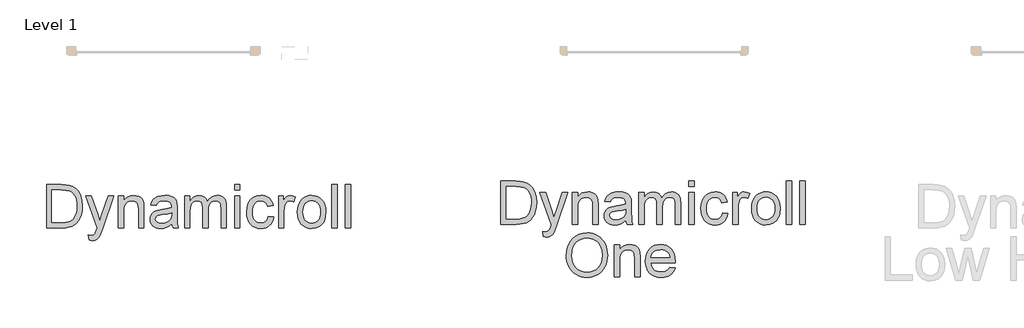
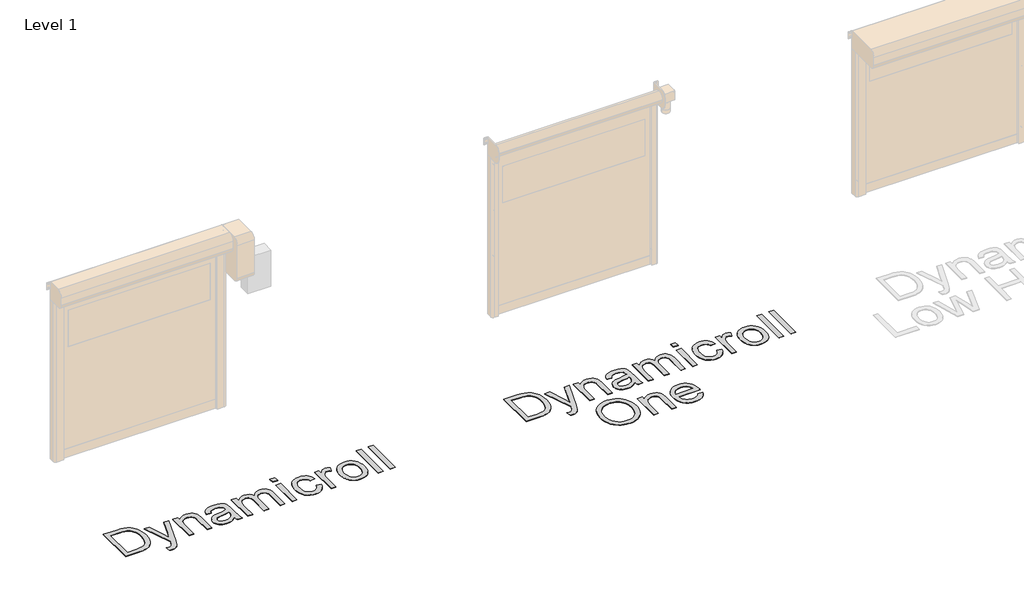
# One storey, part 13 of 20: 2 proxies.
"""IFC4 building model written with IfcOpenShell, lengths in millimetres."""

import ifcopenshell
import ifcopenshell.guid

model = None  # the IFC model being written
_history = None  # IfcOwnerHistory: only IFC2X3 demands one
_inside = {}  # id of a spatial element -> (the spatial element, [elements in it])
_under = {}  # id of a project, library or spatial element -> (it, [spatial elements below it])
_declared = {}  # id of a project -> (the project, [libraries it declares])
_typed = {}  # id of a type object -> (the type object, [elements of that type])
_made_of = {}  # id of a material, layer set ... -> (it, [elements and type objects made of it])


def new_model(schema):
    """Start an empty IFC model of exactly this schema.

    Asked for "IFC4X3", IfcOpenShell would pick the latest addendum, in which some entities
    have other attributes; the version numbers below select the first issue.
    IFC2X3 requires an IfcOwnerHistory on every rooted entity: one is made here for all.
    """
    global model, _history
    if schema == "IFC4X3":
        model = ifcopenshell.file(schema_version=(4, 3, 0, 0))
    else:
        model = ifcopenshell.file(schema=schema)
    _inside.clear()
    _under.clear()
    _declared.clear()
    _typed.clear()
    _made_of.clear()
    _history = None
    if model.schema == "IFC2X3":
        org = make("IfcOrganization", Name="unknown")
        user = make(
            "IfcPersonAndOrganization",
            ThePerson=make("IfcPerson", FamilyName="unknown"),
            TheOrganization=org,
        )
        app = make(
            "IfcApplication",
            ApplicationDeveloper=org,
            Version="unknown",
            ApplicationFullName="unknown",
            ApplicationIdentifier="unknown",
        )
        _history = make(
            "IfcOwnerHistory",
            OwningUser=user,
            OwningApplication=app,
            ChangeAction="ADDED",
            CreationDate=0,
        )
    return model


def make(cls, **values):
    """One entity of the class cls with the attributes given. An attribute that is None is left unset."""
    return model.create_entity(
        cls, **{name: value for name, value in values.items() if value is not None}
    )


def rooted(cls, **values):
    """An entity with a GlobalId (a new one), such as an element, a storey or a relation."""
    return make(cls, GlobalId=ifcopenshell.guid.new(), OwnerHistory=_history, **values)


def si_unit(unit_type, name, prefix=None):
    """IfcSIUnit, for example si_unit("LENGTHUNIT", "METRE", prefix="MILLI")."""
    return make("IfcSIUnit", UnitType=unit_type, Prefix=prefix, Name=name)


def assignment(units):
    """IfcUnitAssignment: the units of a project."""
    return None if units is None else make("IfcUnitAssignment", Units=units)


def point(xyz):
    """IfcCartesianPoint."""
    return None if xyz is None else make("IfcCartesianPoint", Coordinates=xyz)


def direction(xyz):
    """IfcDirection."""
    return None if xyz is None else make("IfcDirection", DirectionRatios=xyz)


def frame(location, z_axis=None, x_axis=None):
    """IfcAxis2Placement3D, a coordinate frame: its origin and axes. An axis left out is left unset."""
    return make(
        "IfcAxis2Placement3D",
        Location=point(location),
        Axis=direction(z_axis),
        RefDirection=direction(x_axis),
    )


def origin():
    """The frame at (0, 0, 0) with its axes left unset."""
    return frame((0.0, 0.0, 0.0))


def origin_with_axes():
    """The frame at (0, 0, 0) with the z axis (0, 0, 1) and the x axis (1, 0, 0) written out."""
    return frame((0.0, 0.0, 0.0), z_axis=(0.0, 0.0, 1.0), x_axis=(1.0, 0.0, 0.0))


def place(relative_to, where):
    """IfcLocalPlacement: puts the frame where relative to a parent placement (None: the world)."""
    return make(
        "IfcLocalPlacement", PlacementRelTo=relative_to, RelativePlacement=where
    )


def context(
    kind, dimensions, precision=None, world=None, true_north=None, identifier=None
):
    """IfcGeometricRepresentationContext, for example the 3D "Model" context."""
    return make(
        "IfcGeometricRepresentationContext",
        ContextIdentifier=identifier,
        ContextType=kind,
        CoordinateSpaceDimension=dimensions,
        Precision=precision,
        WorldCoordinateSystem=world,
        TrueNorth=true_north,
    )


def project(units=None, contexts=None):
    """IfcProject with its units and contexts."""
    return rooted(
        "IfcProject",
        Name="project",
        RepresentationContexts=contexts,
        UnitsInContext=assignment(units),
    )


def spatial(cls, under=None, at=None, **own):
    """A site, building, storey or space (cls), placed at a placement, below another one or the project."""
    s = rooted(cls, ObjectPlacement=at, **own)
    if under is not None:
        _under.setdefault(under.id(), (under, []))[1].append(s)
    return s


def polyline(points):
    """IfcPolyline through the points."""
    return make("IfcPolyline", Points=[point(p) for p in points])


def outline(outer, holes=None, kind="AREA"):
    """IfcArbitraryClosedProfileDef: a profile drawn as a closed curve; with holes, ...WithVoids."""
    if holes is None:
        return make("IfcArbitraryClosedProfileDef", ProfileType=kind, OuterCurve=outer)
    return make(
        "IfcArbitraryProfileDefWithVoids",
        ProfileType=kind,
        OuterCurve=outer,
        InnerCurves=holes,
    )


def extrude(swept, where, along, depth):
    """IfcExtrudedAreaSolid: the profile swept, set in the frame where, extruded along a direction by depth."""
    return make(
        "IfcExtrudedAreaSolid",
        SweptArea=swept,
        Position=where,
        ExtrudedDirection=direction(along),
        Depth=depth,
    )


def shape(context_of_items, identifier, shape_type, items):
    """IfcShapeRepresentation: the items that make up one representation, for example the "Body"."""
    return make(
        "IfcShapeRepresentation",
        ContextOfItems=context_of_items,
        RepresentationIdentifier=identifier,
        RepresentationType=shape_type,
        Items=items,
    )


def made_of(thing, what):
    """Note that an element or type object is made of a material, layer set ...; save() writes the relation."""
    if what is not None:
        _made_of.setdefault(what.id(), (what, []))[1].append(thing)
    return thing


def element(
    cls,
    number,
    at=None,
    inside=None,
    cuts=None,
    type_object=None,
    material=None,
    context=None,
    identifier="Body",
    shape_type=None,
    held_by="IfcProductDefinitionShape",
    body=None,
    shapes=None,
    **own,
):
    """One element of the class cls, such as IfcWall. Its Tag is "e" and its number.

    at: its placement. inside: the storey or other place that contains it. cuts: it is an
    opening in that element (IfcRelVoidsElement). A single representation is given by context,
    identifier, shape_type and body (its items); several are given by shapes. held_by: the class
    of the entity that holds the representations. save() writes the other relations.
    """
    e = rooted(cls, Tag="e%d" % number, ObjectPlacement=at, **own)
    if body is not None:
        shapes = [shape(context, identifier, shape_type, body)]
    if shapes is not None:
        e.Representation = make(held_by, Representations=shapes)
    if inside is not None:
        _inside.setdefault(inside.id(), (inside, []))[1].append(e)
    if cuts is not None:
        rooted(
            "IfcRelVoidsElement", RelatingBuildingElement=cuts, RelatedOpeningElement=e
        )
    if type_object is not None:
        _typed.setdefault(type_object.id(), (type_object, []))[1].append(e)
    return made_of(e, material)


def aggregate(whole, parts):
    """IfcRelAggregates: a whole, such as a stair, and the parts it consists of."""
    return rooted("IfcRelAggregates", RelatingObject=whole, RelatedObjects=parts)


def save(model, path):
    """Write the relations noted so far, then the file.

    IfcRelAggregates (storeys below a building ...), IfcRelContainedInSpatialStructure (elements
    in a storey), IfcRelDefinesByType, IfcRelAssociatesMaterial and IfcRelDeclares: one each for
    every whole, place, type object, material and project.
    """
    for whole, parts in _under.values():
        aggregate(whole, parts)
    for where, things in _inside.values():
        rooted(
            "IfcRelContainedInSpatialStructure",
            RelatedElements=things,
            RelatingStructure=where,
        )
    for kind, things in _typed.values():
        rooted("IfcRelDefinesByType", RelatedObjects=things, RelatingType=kind)
    for what, things in _made_of.values():
        rooted("IfcRelAssociatesMaterial", RelatedObjects=things, RelatingMaterial=what)
    for by, libraries in _declared.values():
        rooted("IfcRelDeclares", RelatingContext=by, RelatedDefinitions=libraries)
    model.write(path)


model = new_model("IFC4")

# Units and contexts
model_context = context("Model", 3, world=origin())
ifc_project = project(units=[si_unit("LENGTHUNIT", "METRE", prefix="MILLI")], contexts=[model_context])

# Site, building, storey
site = spatial("IfcSite", under=ifc_project)
building = spatial("IfcBuilding", under=site)
storey = spatial("IfcBuildingStorey", under=building, Name="Level 1", Elevation=0.0)

# Proxies
placement = place(None, origin())
element("IfcBuildingElementProxy", 1, Name="500mm", ObjectType="500mm", at=placement, inside=storey, context=model_context, shape_type="SweptSolid", body=[
    extrude(outline(polyline([(5402.5904997, 42632.3594673), (5402.5904997, 43134.6410181), (5575.8629195, 43134.6410181), (5627.6423103, 43132.832265), (5665.5034989, 43127.4060055), (5705.5413228, 43113.4571465), (5739.3251526, 43091.4761973), (5757.9415144, 43073.5112932), (5774.0593444, 43053.2164698), (5787.6786424, 43030.5917271), (5798.7994085, 43005.6370651), (5813.6066588, 42949.6576882), (5818.5424089, 42886.198044), (5815.2008142, 42832.2880033), (5805.1760298, 42784.8465543), (5789.908927, 42744.456177), (5770.8403769, 42711.699351), (5748.8900845, 42685.8403124), (5724.9777548, 42666.1432972), (5697.5245609, 42651.5353163), (5664.951676, 42640.9433806), (5627.1977862, 42634.5054457), (5584.201578, 42632.3594673), (5402.5904997, 42632.3594673)]), holes=[polyline([(5465.3756936, 42695.1446612), (5576.4760561, 42695.1446612), (5622.4306487, 42697.4132668), (5657.2874677, 42704.2190837), (5683.5910304, 42715.1635731), (5703.8858538, 42729.8481961), (5725.6981904, 42757.0254785), (5742.0842676, 42792.2041943), (5752.3389782, 42835.5376276), (5755.7572151, 42887.1790627), (5754.0825856, 42923.630037), (5749.0586971, 42955.6051138), (5740.6855496, 42983.1042929), (5728.9631431, 43006.1275744), (5714.8418394, 43025.1961245), (5699.2720004, 43040.8311093), (5682.253626, 43053.0325288), (5663.7867163, 43061.800383), (5627.6729671, 43069.341964), (5574.7592735, 43071.8558243), (5465.3756936, 43071.8558243), (5465.3756936, 42695.1446612)])]), origin_with_axes(), (0.0, 0.0, 1.0), 5.0),
    extrude(outline(polyline([(5897.0239012, 42491.0927812), (5889.175752, 42551.5480557), (5921.0588583, 42546.0298258), (5937.8281459, 42547.7619369), (5950.8572999, 42552.9582701), (5961.0047116, 42561.2509434), (5969.1287723, 42572.2720748), (5986.2965987, 42618.5025789), (5991.201692, 42633.708368), (5857.7831551, 43001.2224812), (5924.0019142, 43001.2224812), (5994.7578846, 42796.4348372), (6019.4059783, 42714.5197796), (6044.054072, 42786.8699053), (6116.7720797, 43001.2224812), (6182.5003295, 43001.2224812), (6054.1095132, 42623.5302995), (6020.754879, 42541.6152419), (6003.679023, 42515.4649634), (5984.3345614, 42497.3467751), (5961.8631029, 42486.7701678), (5935.4062561, 42483.244632), (5917.2267541, 42485.2066693), (5897.0239012, 42491.0927812)])), origin_with_axes(), (0.0, 0.0, 1.0), 5.0),
    extrude(outline(polyline([(6234.4943182, 42632.3594673), (6234.4943182, 43001.2224812), (6297.279512, 43001.2224812), (6297.279512, 42949.7190019), (6319.0918486, 42975.6853393), (6345.2881124, 42994.2327233), (6375.8683032, 43005.3611536), (6410.8324212, 43009.0706304), (6441.780494, 43006.0815892), (6470.1227361, 42997.1144656), (6493.7591543, 42983.2882339), (6510.5897555, 42965.7218686), (6522.0094258, 42944.461355), (6529.413051, 42919.5526782), (6532.7239889, 42858.852149), (6532.7239889, 42632.3594673), (6469.9387951, 42632.3594673), (6469.9387951, 42850.3908632), (6468.1300419, 42882.8564492), (6462.7037825, 42905.9410444), (6452.6943265, 42922.4804058), (6437.1359838, 42935.3102904), (6417.193714, 42943.54165), (6394.0324767, 42946.2854366), (6374.9677588, 42944.7449307), (6357.2596056, 42940.1234131), (6340.9080174, 42932.4208839), (6325.912994, 42921.6373429), (6313.3858456, 42906.5465169), (6304.4378825, 42885.9221325), (6299.0691046, 42859.7641898), (6297.279512, 42828.0726888), (6297.279512, 42632.3594673), (6234.4943182, 42632.3594673)])), origin_with_axes(), (0.0, 0.0, 1.0), 5.0),
    extrude(outline(polyline([(6854.4981074, 42679.4483627), (6824.5003963, 42653.7272799), (6793.6136372, 42636.8966786), (6761.1327227, 42627.6076582), (6726.3525457, 42624.5113181), (6698.3973462, 42626.3737207), (6673.8833761, 42631.9609285), (6652.8106356, 42641.2729415), (6635.1791246, 42654.3097597), (6621.2570903, 42670.2436486), (6611.3127801, 42688.2468738), (6605.346194, 42708.3194351), (6603.357332, 42730.4613327), (6606.3617016, 42756.4889839), (6615.3748105, 42780.1254021), (6629.2776842, 42800.3589118), (6646.9513484, 42816.1778376), (6667.7213527, 42828.1340024), (6690.9132468, 42836.7792293), (6745.2371548, 42846.2215339), (6809.432563, 42856.1543477), (6854.1302254, 42867.8039443), (6854.4981074, 42881.7834601), (6850.1754939, 42909.8038054), (6837.2076536, 42928.1365915), (6824.1325143, 42936.0767112), (6808.2062896, 42941.7482253), (6767.8005838, 42946.2854366), (6730.3992477, 42943.2657385), (6704.279626, 42934.2066444), (6686.4680061, 42917.4526852), (6673.9906751, 42891.348392), (6611.2054812, 42899.1965412), (6622.1039853, 42933.5321941), (6638.3674352, 42960.510207), (6661.5133441, 42981.1422556), (6693.0592251, 42996.4400152), (6731.6408494, 43005.9129766), (6775.8939877, 43009.0706304), (6818.3383729, 43006.2808586), (6851.9842471, 42997.9115432), (6877.3527763, 42985.3269133), (6894.9651268, 42969.8911979), (6906.6453802, 42950.8073194), (6914.2176179, 42927.2782001), (6917.2833012, 42872.3411555), (6917.2833012, 42794.2275452), (6920.4716118, 42685.1505337), (6925.1927641, 42658.1878491), (6932.9795997, 42632.3594673), (6870.1944058, 42632.3594673), (6860.1389646, 42654.1871324), (6854.4981074, 42679.4483627)]), holes=[polyline([(6854.4981074, 42805.0187504), (6812.3143052, 42794.5647704), (6753.2079314, 42785.7662593), (6699.1905917, 42775.5881908), (6685.1344338, 42768.6290897), (6674.7264391, 42759.033501), (6668.2885041, 42747.5371887), (6666.1425258, 42734.8759167), (6670.8176929, 42716.2059054), (6684.8431939, 42700.9081458), (6707.9124607, 42690.6994204), (6739.7189249, 42687.296512), (6773.4414411, 42691.051974), (6803.2398827, 42702.3183601), (6827.397467, 42718.9190351), (6844.1974115, 42738.677364), (6851.6470219, 42759.033501), (6854.1302254, 42787.2377873), (6854.4981074, 42805.0187504)])]), origin_with_axes(), (0.0, 0.0, 1.0), 5.0),
    extrude(outline(polyline([(7003.6129427, 42632.3594673), (7003.6129427, 43001.2224812), (7066.3981366, 43001.2224812), (7066.3981366, 42940.521952), (7085.2827457, 42968.4043415), (7109.5629574, 42990.247335), (7138.4110371, 43004.3648066), (7170.9992505, 43009.0706304), (7205.9173833, 43004.2728361), (7233.9070717, 42989.879453), (7254.8150318, 42966.840843), (7268.4879793, 42936.107368), (7291.373305, 42968.0287953), (7317.4775983, 42990.8298148), (7346.800859, 43004.5104265), (7379.3430871, 43009.0706304), (7404.477858, 43007.1737389), (7426.5392814, 43001.4830643), (7445.5273573, 42991.9986066), (7461.4420857, 42978.7203658), (7474.0228836, 42961.4950578), (7483.0091677, 42940.1693984), (7488.4009382, 42914.7433876), (7490.198195, 42885.2170254), (7490.198195, 42632.3594673), (7427.4130012, 42632.3594673), (7427.4130012, 42858.2390124), (7425.9568016, 42889.5549672), (7421.5882029, 42910.6621967), (7413.4028285, 42925.1168934), (7400.4963019, 42936.47525), (7383.8956268, 42943.8328899), (7364.6278073, 42946.2854366), (7346.8353479, 42944.7142739), (7330.6140512, 42940.0007858), (7315.9639172, 42932.1449724), (7302.8849458, 42921.1468336), (7292.1282296, 42906.6844726), (7284.4448608, 42888.4359928), (7279.8348396, 42866.4013942), (7278.2981658, 42840.5806766), (7278.2981658, 42632.3594673), (7215.512972, 42632.3594673), (7215.512972, 42865.2287703), (7211.8801373, 42900.7293828), (7200.9816332, 42926.0519268), (7192.5548362, 42934.9040873), (7181.8057842, 42941.2270591), (7153.3409148, 42946.2854366), (7129.1526736, 42942.9131849), (7106.8651561, 42932.7964301), (7088.4710563, 42916.1804266), (7075.9630685, 42893.3104293), (7068.7893696, 42861.5806072), (7066.3981366, 42818.3851296), (7066.3981366, 42632.3594673), (7003.6129427, 42632.3594673)])), origin_with_axes(), (0.0, 0.0, 1.0), 5.0),
    extrude(outline(polyline([(7584.3759858, 43071.8558243), (7584.3759858, 43134.6410181), (7647.1611796, 43134.6410181), (7647.1611796, 43071.8558243), (7584.3759858, 43071.8558243)])), origin_with_axes(), (0.0, 0.0, 1.0), 5.0),
    extrude(outline(polyline([(7584.3759858, 42632.3594673), (7584.3759858, 43001.2224812), (7647.1611796, 43001.2224812), (7647.1611796, 42632.3594673), (7584.3759858, 42632.3594673)])), origin_with_axes(), (0.0, 0.0, 1.0), 5.0),
    extrude(outline(polyline([(7976.7834473, 42765.7780043), (8039.5686412, 42757.929855), (8032.7398316, 42728.3038581), (8022.0635896, 42702.0884338), (8007.539915, 42679.2835823), (7989.1688078, 42659.8893033), (7967.7243532, 42644.4114348), (7943.9806361, 42633.3558144), (7917.9376565, 42626.7224422), (7889.5954145, 42624.5113181), (7854.3822097, 42627.5961619), (7822.8095039, 42636.8506934), (7794.877297, 42652.2749124), (7770.585589, 42673.8688191), (7750.9230628, 42701.2262104), (7736.8784012, 42733.9408833), (7728.4516043, 42772.0128377), (7725.6426719, 42815.4420736), (7730.4404663, 42871.3141516), (7744.8338494, 42919.7366192), (7755.6863682, 42940.6867325), (7769.0527474, 42958.8394096), (7784.9329868, 42974.1946508), (7803.3270866, 42986.752456), (7844.3306006, 43003.4910868), (7888.7370231, 43009.0706304), (7916.592588, 43007.1545783), (7941.7886725, 43001.4064222), (7964.3252768, 42991.8261619), (7984.2024009, 42978.4137975), (8001.0828195, 42961.4758973), (8014.6293076, 42941.3190296), (8024.841865, 42917.9431945), (8031.7204919, 42891.348392), (7968.9352981, 42883.5002427), (7957.5462846, 42910.8921229), (7939.8113068, 42930.5278244), (7916.7113832, 42942.3460335), (7889.2275325, 42946.2854366), (7867.8942088, 42944.3463919), (7848.6532141, 42938.5292578), (7831.5045482, 42928.8340344), (7816.4482111, 42915.2607216), (7804.18931, 42897.495087), (7795.4329521, 42875.2228978), (7790.1791374, 42848.4441543), (7788.4278658, 42817.1588563), (7790.1408163, 42785.4022094), (7795.2796679, 42758.3130654), (7803.8444206, 42735.8914243), (7815.8350744, 42718.1372859), (7830.5925074, 42704.6444473), (7847.4575976, 42695.0067054), (7866.4303451, 42689.2240603), (7887.5107498, 42687.296512), (7920.0223211, 42692.1096347), (7946.6784374, 42706.549003), (7957.4581463, 42717.4704998), (7966.0688842, 42730.9824989), (7976.7834473, 42765.7780043)])), origin_with_axes(), (0.0, 0.0, 1.0), 5.0),
    extrude(outline(polyline([(8094.5056858, 42632.3594673), (8094.5056858, 43001.2224812), (8149.4427304, 43001.2224812), (8149.4427304, 42946.6533186), (8169.7375538, 42978.2911701), (8188.4382219, 42996.9305246), (8207.2002036, 43006.0356039), (8227.678968, 43009.0706304), (8258.9489376, 43004.2268508), (8290.7094165, 42989.695512), (8269.7401428, 42933.4095667), (8247.6672231, 42943.0664691), (8225.5943034, 42946.2854366), (8206.84765, 42943.1890964), (8190.0936909, 42933.9000761), (8176.5586991, 42919.1234826), (8167.4689481, 42899.5644232), (8159.8353967, 42864.4930063), (8157.2908796, 42826.2332788), (8157.2908796, 42632.3594673), (8094.5056858, 42632.3594673)])), origin_with_axes(), (0.0, 0.0, 1.0), 5.0),
    extrude(outline(polyline([(8314.2538642, 42816.7909743), (8317.6491085, 42864.5619842), (8327.8348412, 42905.7264466), (8344.8110624, 42940.2843615), (8368.5777722, 42968.2357289), (8392.5054303, 42986.1009983), (8418.9162919, 42998.861905), (8447.8103569, 43006.5184491), (8479.1876254, 43009.0706304), (8513.8260145, 43005.962794), (8545.1458014, 42996.6392847), (8573.1469862, 42981.1001025), (8597.8295688, 42959.3452474), (8617.9749402, 42932.1104834), (8632.3644911, 42900.1315746), (8640.9982217, 42863.4085208), (8643.8761319, 42821.9413222), (8638.7870976, 42758.5123349), (8632.4258048, 42732.4770195), (8623.5199948, 42710.227823), (8612.1807988, 42691.0098208), (8598.5193476, 42674.0680885), (8582.5356413, 42659.4026261), (8564.2296799, 42647.0134335), (8523.5020774, 42630.136847), (8479.1876254, 42624.5113181), (8444.0433985, 42627.6076582), (8412.4323717, 42636.8966786), (8384.3545448, 42652.3783793), (8359.809918, 42674.0527601), (8339.8791444, 42701.5519393), (8325.6428777, 42734.5080347), (8317.1011176, 42772.9210463), (8314.2538642, 42816.7909743)]), holes=[polyline([(8377.0390581, 42816.9136016), (8378.8554754, 42786.4598702), (8384.3047275, 42760.0911618), (8393.3868142, 42737.8074763), (8406.1017357, 42719.6088139), (8421.5681079, 42705.4721818), (8438.9045469, 42695.3745874), (8458.1110528, 42689.3160308), (8479.1876254, 42687.296512), (8500.1568991, 42689.3275271), (8519.2867629, 42695.4205727), (8536.5772166, 42705.5756486), (8552.0282604, 42719.7927549), (8564.7431819, 42738.1715262), (8573.8252687, 42760.8115973), (8579.2745207, 42787.7129682), (8581.0909381, 42818.8756389), (8579.2630244, 42848.3636801), (8573.7792834, 42874.0426098), (8564.6397151, 42895.912428), (8551.8443194, 42913.9731347), (8536.3357941, 42928.1097667), (8519.0568366, 42938.2073611), (8500.0074471, 42944.2659177), (8479.1876254, 42946.2854366), (8458.1110528, 42944.2735819), (8438.9045469, 42938.2380179), (8421.5681079, 42928.1787446), (8406.1017357, 42914.095762), (8393.3868142, 42895.950749), (8384.3047275, 42873.7053846), (8378.8554754, 42847.3596688), (8377.0390581, 42816.9136016)])]), origin_with_axes(), (0.0, 0.0, 1.0), 5.0),
    extrude(outline(polyline([(8714.509475, 42632.3594673), (8714.509475, 43134.6410181), (8777.2946688, 43134.6410181), (8777.2946688, 42632.3594673), (8714.509475, 42632.3594673)])), origin_with_axes(), (0.0, 0.0, 1.0), 5.0),
    extrude(outline(polyline([(8871.4724596, 42632.3594673), (8871.4724596, 43134.6410181), (8934.2576534, 43134.6410181), (8934.2576534, 42632.3594673), (8871.4724596, 42632.3594673)])), origin_with_axes(), (0.0, 0.0, 1.0), 5.0),
    extrude(outline(polyline([(6163.8609751, 42267.0042776), (6168.0456328, 42325.9190463), (6180.5996059, 42378.0739833), (6201.5228943, 42423.4690887), (6230.8154982, 42462.1043624), (6266.7223138, 42492.9528005), (6307.4882374, 42514.9873992), (6353.113269, 42528.2081584), (6403.5974086, 42532.6150781), (6437.3889027, 42530.5457419), (6469.4789426, 42524.3377332), (6499.8675282, 42513.9910521), (6528.5546596, 42499.5056985), (6554.735595, 42481.3185324), (6577.6055923, 42459.8664136), (6597.1646517, 42435.149342), (6613.4127732, 42407.1673177), (6626.1813441, 42376.5564701), (6635.3017519, 42343.9529282), (6640.7739966, 42309.3566923), (6642.5980781, 42272.7677622), (6640.678194, 42235.695987), (6634.9185415, 42200.6322343), (6625.3191207, 42167.5765042), (6611.8799315, 42136.5287966), (6594.9190387, 42108.3091819), (6574.7545069, 42083.7377303), (6551.386336, 42062.8144418), (6524.814526, 42045.5393165), (6496.0852415, 42032.0196532), (6466.2446467, 42022.3627508), (6435.2927418, 42016.5686094), (6403.2295266, 42014.6372289), (6368.8478885, 42016.7717109), (6336.3363172, 42023.1751569), (6305.6948126, 42033.8475668), (6276.9233749, 42048.7889408), (6250.7730964, 42067.420631), (6227.9950696, 42089.1639897), (6208.5892943, 42114.019017), (6192.5557707, 42141.9857129), (6180.0017976, 42171.9412708), (6171.034674, 42202.7628842), (6165.6543998, 42234.4505531), (6163.8609751, 42267.0042776)]), holes=[polyline([(6226.6461689, 42266.3911409), (6229.7846622, 42224.766826), (6239.200142, 42187.8176781), (6254.8926084, 42155.5436973), (6276.8620613, 42127.9448834), (6303.5679949, 42105.8413069), (6333.4699033, 42090.0530379), (6366.5677865, 42080.5800765), (6402.8616446, 42077.4224227), (6439.7763036, 42080.6107334), (6473.2650614, 42090.1756652), (6503.3279182, 42106.1172184), (6529.9648739, 42128.4353927), (6551.7733785, 42156.6166864), (6567.3508817, 42190.1475974), (6576.6973836, 42229.0281258), (6579.8128843, 42273.2582715), (6574.4785954, 42328.8391096), (6558.4757286, 42376.8783668), (6546.5770453, 42397.7671663), (6532.2181512, 42416.1650982), (6515.3990462, 42432.0721624), (6496.1197304, 42445.4883589), (6474.978012, 42456.1377762), (6452.5716992, 42463.7445029), (6428.9007921, 42468.3085389), (6403.9652906, 42469.8298843), (6368.9321948, 42466.8983246), (6336.4282877, 42458.1036457), (6306.4535693, 42443.4458474), (6279.0080396, 42422.9249299), (6256.0997212, 42395.5522102), (6239.7366366, 42360.3390054), (6229.9187858, 42317.2853157), (6226.6461689, 42266.3911409)])]), origin_with_axes(), (0.0, 0.0, 1.0), 5.0),
    extrude(outline(polyline([(6721.0795704, 42022.4853781), (6721.0795704, 42391.348392), (6783.8647643, 42391.348392), (6783.8647643, 42339.8449126), (6805.6771009, 42365.8112501), (6831.8733647, 42384.358634), (6862.4535555, 42395.4870644), (6897.4176735, 42399.1965412), (6928.3657463, 42396.2075), (6956.7079884, 42387.2403763), (6980.3444065, 42373.4141447), (6997.1750078, 42355.8477794), (7008.5946781, 42334.5872658), (7015.9983032, 42309.678589), (7019.3092412, 42248.9780598), (7019.3092412, 42022.4853781), (6956.5240474, 42022.4853781), (6956.5240474, 42240.5167739), (6954.7152942, 42272.98236), (6949.2890348, 42296.0669552), (6939.2795788, 42312.6063166), (6923.7212361, 42325.4362011), (6903.7789663, 42333.6675608), (6880.617729, 42336.4113473), (6861.553011, 42334.8708415), (6843.8448579, 42330.2493239), (6827.4932697, 42322.5467946), (6812.4982462, 42311.7632537), (6799.9710979, 42296.6724277), (6791.0231348, 42276.0480433), (6785.6543569, 42249.8901006), (6783.8647643, 42218.1985996), (6783.8647643, 42022.4853781), (6721.0795704, 42022.4853781)])), origin_with_axes(), (0.0, 0.0, 1.0), 5.0),
    extrude(outline(polyline([(7363.8920433, 42132.3594673), (7425.4509639, 42124.5113181), (7416.0124914, 42099.8555602), (7403.2707452, 42078.1275299), (7387.2257253, 42059.3272271), (7367.8774316, 42043.4546518), (7345.4251336, 42030.8470293), (7320.0681007, 42021.8415846), (7291.8063328, 42016.4383178), (7260.63983, 42014.6372289), (7221.6826596, 42017.7450653), (7186.9714605, 42027.0685746), (7156.5062328, 42042.6077568), (7130.2869764, 42064.3626119), (7109.2027396, 42091.7276674), (7094.1425704, 42124.0974509), (7085.1064689, 42161.4719623), (7082.094435, 42203.8512017), (7085.1371257, 42247.6674802), (7094.2651977, 42286.2874255), (7109.4786511, 42319.7110376), (7130.7774857, 42347.9383165), (7156.9277642, 42370.3637898), (7186.695549, 42386.381985), (7220.0808401, 42395.9929021), (7257.0836374, 42399.1965412), (7292.8946504, 42396.0005663), (7325.2797623, 42386.4126418), (7354.2389731, 42370.4327677), (7379.7722828, 42348.0609439), (7400.6150971, 42319.8949786), (7415.5028216, 42286.5326802), (7424.4354563, 42247.9740485), (7427.4130012, 42204.2190837), (7427.0451192, 42187.296512), (7144.8796289, 42187.296512), (7148.5162957, 42162.2422152), (7155.7474762, 42140.2995871), (7166.5731703, 42121.4686274), (7180.9933781, 42105.7493364), (7198.2110219, 42093.3563116), (7217.429024, 42084.5041511), (7238.6473845, 42079.1928548), (7261.8661034, 42077.4224227), (7295.2820512, 42080.7027039), (7323.4250239, 42090.5435472), (7346.2950212, 42107.5580895), (7363.8920433, 42132.3594673)]), holes=[polyline([(7144.8796289, 42250.0817058), (7364.6278073, 42250.0817058), (7356.1358646, 42283.252399), (7339.4892043, 42306.9807877), (7322.3673631, 42319.8566576), (7302.8849458, 42329.0537074), (7281.0419524, 42334.5719374), (7256.8383828, 42336.4113473), (7214.5166249, 42330.5405638), (7196.1033646, 42323.2020844), (7179.5218501, 42312.9282133), (7165.6074801, 42300.1941313), (7155.1956532, 42285.4750194), (7148.2863694, 42268.7708776), (7144.8796289, 42250.0817058)])]), origin_with_axes(), (0.0, 0.0, 1.0), 5.0),
])
element("IfcBuildingElementProxy", 2, Name="500mm", ObjectType="500mm", at=placement, inside=storey, context=model_context, shape_type="SweptSolid", body=[
    extrude(outline(polyline([(132.2974666, 42591.1035648), (132.2974666, 43093.3851155), (305.5698863, 43093.3851155), (357.3492772, 43091.5763624), (395.2104658, 43086.150103), (435.2482896, 43072.201244), (469.0321195, 43050.2202948), (487.6484813, 43032.2553907), (503.7663112, 43011.9605673), (517.3856093, 42989.3358246), (528.5063754, 42964.3811626), (543.3136257, 42908.4017856), (548.2493758, 42844.9421415), (544.907781, 42791.0321008), (534.8829967, 42743.5906518), (519.6158939, 42703.2002744), (500.5473438, 42670.4434484), (478.5970514, 42644.5844098), (454.6847217, 42624.8873947), (427.2315278, 42610.2794138), (394.6586428, 42599.687478), (356.9047531, 42593.2495431), (313.9085449, 42591.1035648), (132.2974666, 42591.1035648)]), holes=[polyline([(195.0826604, 42653.8887586), (306.183023, 42653.8887586), (352.1376156, 42656.1573643), (386.9944346, 42662.9631812), (413.2979973, 42673.9076705), (433.5928207, 42688.5922935), (455.4051573, 42715.7695759), (471.7912345, 42750.9482917), (482.0459451, 42794.2817251), (485.464182, 42845.9231601), (483.7895525, 42882.3741345), (478.765664, 42914.3492112), (470.3925165, 42941.8483904), (458.67011, 42964.8716719), (444.5488063, 42983.940222), (428.9789673, 42999.5752068), (411.9605929, 43011.7766263), (393.4936832, 43020.5444805), (357.379934, 43028.0860614), (304.4662403, 43030.5999217), (195.0826604, 43030.5999217), (195.0826604, 42653.8887586)])]), origin_with_axes(), (0.0, 0.0, 1.0), 5.0),
    extrude(outline(polyline([(626.7308681, 42449.8368787), (618.8827189, 42510.2921532), (650.7658251, 42504.7739233), (667.5351128, 42506.5060343), (680.5642668, 42511.7023675), (690.7116785, 42519.9950408), (698.8357392, 42531.0161723), (716.0035656, 42577.2466763), (720.9086589, 42592.4524654), (587.490122, 42959.9665786), (653.7088811, 42959.9665786), (724.4648515, 42755.1789346), (749.1129452, 42673.2638771), (773.7610389, 42745.6140028), (846.4790466, 42959.9665786), (912.2072964, 42959.9665786), (783.8164801, 42582.2743969), (750.4618458, 42500.3593393), (733.3859899, 42474.2090608), (714.0415283, 42456.0908726), (691.5700698, 42445.5142652), (665.113223, 42441.9887294), (646.933721, 42443.9507667), (626.7308681, 42449.8368787)])), origin_with_axes(), (0.0, 0.0, 1.0), 5.0),
    extrude(outline(polyline([(964.201285, 42591.1035648), (964.201285, 42959.9665786), (1026.9864789, 42959.9665786), (1026.9864789, 42908.4630993), (1048.7988155, 42934.4294368), (1074.9950792, 42952.9768207), (1105.5752701, 42964.1052511), (1140.5393881, 42967.8147279), (1171.4874609, 42964.8256867), (1199.8297029, 42955.858563), (1223.4661211, 42942.0323314), (1240.2967224, 42924.4659661), (1251.7163927, 42903.2054525), (1259.1200178, 42878.2967757), (1262.4309558, 42817.5962465), (1262.4309558, 42591.1035648), (1199.6457619, 42591.1035648), (1199.6457619, 42809.1349606), (1197.8370088, 42841.6005467), (1192.4107494, 42864.6851419), (1182.4012934, 42881.2245032), (1166.8429507, 42894.0543878), (1146.9006809, 42902.2857475), (1123.7394436, 42905.029534), (1104.6747256, 42903.4890282), (1086.9665725, 42898.8675106), (1070.6149842, 42891.1649813), (1055.6199608, 42880.3814403), (1043.0928125, 42865.2906143), (1034.1448494, 42844.66623), (1028.7760715, 42818.5082873), (1026.9864789, 42786.8167862), (1026.9864789, 42591.1035648), (964.201285, 42591.1035648)])), origin_with_axes(), (0.0, 0.0, 1.0), 5.0),
    extrude(outline(polyline([(1584.2050742, 42638.1924602), (1554.2073632, 42612.4713774), (1523.320604, 42595.6407761), (1490.8396895, 42586.3517557), (1456.0595126, 42583.2554156), (1428.1043131, 42585.1178182), (1403.590343, 42590.705026), (1382.5176025, 42600.017039), (1364.8860914, 42613.0538572), (1350.9640572, 42628.9877461), (1341.019747, 42646.9909712), (1335.0531609, 42667.0635326), (1333.0642989, 42689.2054302), (1336.0686685, 42715.2330813), (1345.0817774, 42738.8694995), (1358.9846511, 42759.1030093), (1376.6583153, 42774.9219351), (1397.4283196, 42786.8780999), (1420.6202137, 42795.5233268), (1474.9441217, 42804.9656313), (1539.1395298, 42814.8984452), (1583.8371922, 42826.5480417), (1584.2050742, 42840.5275575), (1579.8824608, 42868.5479028), (1566.9146205, 42886.8806889), (1553.8394812, 42894.8208087), (1537.9132565, 42900.4923227), (1497.5075507, 42905.029534), (1460.1062145, 42902.009836), (1433.9865929, 42892.9507418), (1416.1749729, 42876.1967826), (1403.6976419, 42850.0924894), (1340.9124481, 42857.9406386), (1351.8109522, 42892.2762915), (1368.0744021, 42919.2543045), (1391.2203109, 42939.8863531), (1422.766192, 42955.1841127), (1461.3478163, 42964.6570741), (1505.6009546, 42967.8147279), (1548.0453398, 42965.0249561), (1581.6912139, 42956.6556407), (1607.0597432, 42944.0710108), (1624.6720937, 42928.6352954), (1636.3523471, 42909.5514169), (1643.9245848, 42886.0222976), (1646.9902681, 42831.085253), (1646.9902681, 42752.9716427), (1650.1785787, 42643.8946311), (1654.899731, 42616.9319465), (1662.6865665, 42591.1035648), (1599.9013727, 42591.1035648), (1589.8459315, 42612.9312298), (1584.2050742, 42638.1924602)]), holes=[polyline([(1584.2050742, 42763.7628479), (1542.0212721, 42753.3088678), (1482.9148982, 42744.5103568), (1428.8975586, 42734.3322883), (1414.8414007, 42727.3731872), (1404.4334059, 42717.7775985), (1397.995471, 42706.2812861), (1395.8494927, 42693.6200141), (1400.5246597, 42674.9500029), (1414.5501608, 42659.6522432), (1437.6194276, 42649.4435179), (1469.4258917, 42646.0406094), (1503.148408, 42649.7960714), (1532.9468496, 42661.0624575), (1557.1044339, 42677.6631326), (1573.9043784, 42697.4214614), (1581.3539888, 42717.7775985), (1583.8371922, 42745.9818848), (1584.2050742, 42763.7628479)])]), origin_with_axes(), (0.0, 0.0, 1.0), 5.0),
    extrude(outline(polyline([(1733.3199096, 42591.1035648), (1733.3199096, 42959.9665786), (1796.1051035, 42959.9665786), (1796.1051035, 42899.2660494), (1814.9897125, 42927.148439), (1839.2699242, 42948.9914324), (1868.118004, 42963.108904), (1900.7062174, 42967.8147279), (1935.6243501, 42963.0169335), (1963.6140386, 42948.6235504), (1984.5219987, 42925.5849405), (1998.1949461, 42894.8514655), (2021.0802719, 42926.7728928), (2047.1845652, 42949.5739123), (2076.5078259, 42963.254524), (2109.050054, 42967.8147279), (2134.1848249, 42965.9178363), (2156.2462483, 42960.2271617), (2175.2343242, 42950.742704), (2191.1490526, 42937.4644633), (2203.7298504, 42920.2391553), (2212.7161346, 42898.9134958), (2218.1079051, 42873.487485), (2219.9051619, 42843.9611228), (2219.9051619, 42591.1035648), (2157.1199681, 42591.1035648), (2157.1199681, 42816.9831098), (2155.6637685, 42848.2990647), (2151.2951698, 42869.4062942), (2143.1097954, 42883.8609909), (2130.2032687, 42895.2193475), (2113.6025937, 42902.5769874), (2094.3347742, 42905.029534), (2076.5423148, 42903.4583713), (2060.3210181, 42898.7448833), (2045.670884, 42890.8890698), (2032.5919127, 42879.890931), (2021.8351964, 42865.4285701), (2014.1518277, 42847.1800903), (2009.5418064, 42825.1454916), (2008.0051327, 42799.3247741), (2008.0051327, 42591.1035648), (1945.2199388, 42591.1035648), (1945.2199388, 42823.9728677), (1941.5871041, 42859.4734803), (1930.6886, 42884.7960243), (1922.2618031, 42893.6481848), (1911.512751, 42899.9711566), (1883.0478817, 42905.029534), (1858.8596405, 42901.6572824), (1836.5721229, 42891.5405275), (1818.1780232, 42874.9245241), (1805.6700353, 42852.0545267), (1798.4963364, 42820.3247046), (1796.1051035, 42777.129227), (1796.1051035, 42591.1035648), (1733.3199096, 42591.1035648)])), origin_with_axes(), (0.0, 0.0, 1.0), 5.0),
    extrude(outline(polyline([(2314.0829527, 43030.5999217), (2314.0829527, 43093.3851155), (2376.8681465, 43093.3851155), (2376.8681465, 43030.5999217), (2314.0829527, 43030.5999217)])), origin_with_axes(), (0.0, 0.0, 1.0), 5.0),
    extrude(outline(polyline([(2314.0829527, 42591.1035648), (2314.0829527, 42959.9665786), (2376.8681465, 42959.9665786), (2376.8681465, 42591.1035648), (2314.0829527, 42591.1035648)])), origin_with_axes(), (0.0, 0.0, 1.0), 5.0),
    extrude(outline(polyline([(2706.4904142, 42724.5221017), (2769.275608, 42716.6739525), (2762.4467985, 42687.0479556), (2751.7705564, 42660.8325313), (2737.2468818, 42638.0276797), (2718.8757747, 42618.6334008), (2697.4313201, 42603.1555322), (2673.687603, 42592.0999119), (2647.6446234, 42585.4665396), (2619.3023813, 42583.2554156), (2584.0891766, 42586.3402594), (2552.5164708, 42595.5947908), (2524.5842639, 42611.0190099), (2500.2925559, 42632.6129166), (2480.6300297, 42659.9703079), (2466.5853681, 42692.6849807), (2458.1585711, 42730.7569351), (2455.3496388, 42774.1861711), (2460.1474332, 42830.0582491), (2474.5408162, 42878.4807167), (2485.3933351, 42899.4308299), (2498.7597142, 42917.5835071), (2514.6399537, 42932.9387483), (2533.0340535, 42945.4965535), (2574.0375675, 42962.2351843), (2618.44399, 42967.8147279), (2646.2995548, 42965.8986758), (2671.4956394, 42960.1505196), (2694.0322437, 42950.5702593), (2713.9093678, 42937.1578949), (2730.7897864, 42920.2199947), (2744.3362744, 42900.0631271), (2754.5488319, 42876.687292), (2761.4274588, 42850.0924894), (2698.642265, 42842.2443402), (2687.2532515, 42869.6362204), (2669.5182737, 42889.2719219), (2646.4183501, 42901.090131), (2618.9344993, 42905.029534), (2597.6011757, 42903.0904893), (2578.360181, 42897.2733553), (2561.211515, 42887.5781319), (2546.155178, 42874.0048191), (2533.8962769, 42856.2391844), (2525.139919, 42833.9669953), (2519.8861042, 42807.1882517), (2518.1348327, 42775.9029537), (2519.8477832, 42744.1463069), (2524.9866348, 42717.0571629), (2533.5513875, 42694.6355217), (2545.5420413, 42676.8813833), (2560.2994743, 42663.3885447), (2577.1645645, 42653.7508029), (2596.1373119, 42647.9681578), (2617.2177167, 42646.0406094), (2649.729288, 42650.8537322), (2676.3854043, 42665.2931005), (2687.1651131, 42676.2145972), (2695.7758511, 42689.7265963), (2706.4904142, 42724.5221017)])), origin_with_axes(), (0.0, 0.0, 1.0), 5.0),
    extrude(outline(polyline([(2824.2126526, 42591.1035648), (2824.2126526, 42959.9665786), (2879.1496973, 42959.9665786), (2879.1496973, 42905.397416), (2899.4445207, 42937.0352676), (2918.1451887, 42955.674622), (2936.9071705, 42964.7797014), (2957.3859349, 42967.8147279), (2988.6559045, 42962.9709483), (3020.4163834, 42948.4396094), (2999.4471097, 42892.1536642), (2977.37419, 42901.8105666), (2955.3012703, 42905.029534), (2936.5546169, 42901.9331939), (2919.8006577, 42892.6441735), (2906.265666, 42877.86758), (2897.175915, 42858.3085206), (2889.5423636, 42823.2371038), (2886.9978465, 42784.9773763), (2886.9978465, 42591.1035648), (2824.2126526, 42591.1035648)])), origin_with_axes(), (0.0, 0.0, 1.0), 5.0),
    extrude(outline(polyline([(3043.9608311, 42775.5350717), (3047.3560753, 42823.3060816), (3057.5418081, 42864.470544), (3074.5180293, 42899.028459), (3098.2847391, 42926.9798264), (3122.2123972, 42944.8450958), (3148.6232587, 42957.6060025), (3177.5173238, 42965.2625465), (3208.8945923, 42967.8147279), (3243.5329814, 42964.7068914), (3274.8527683, 42955.3833821), (3302.8539531, 42939.8441999), (3327.5365357, 42918.0893448), (3347.6819071, 42890.8545809), (3362.071458, 42858.875672), (3370.7051886, 42822.1526183), (3373.5830988, 42780.6854196), (3368.4940645, 42717.2564323), (3362.1327717, 42691.2211169), (3353.2269617, 42668.9719204), (3341.8877656, 42649.7539183), (3328.2263145, 42632.812186), (3312.2426082, 42618.1467235), (3293.9366468, 42605.7575309), (3253.2090443, 42588.8809444), (3208.8945923, 42583.2554156), (3173.7503654, 42586.3517557), (3142.1393386, 42595.6407761), (3114.0615117, 42611.1224767), (3089.5168848, 42632.7968576), (3069.5861113, 42660.2960367), (3055.3498445, 42693.2521321), (3046.8080845, 42731.6651438), (3043.9608311, 42775.5350717)]), holes=[polyline([(3106.7460249, 42775.657699), (3108.5624423, 42745.2039676), (3114.0116943, 42718.8352592), (3123.0937811, 42696.5515738), (3135.8087026, 42678.3529113), (3151.2750748, 42664.2162792), (3168.6115138, 42654.1186849), (3187.8180196, 42648.0601283), (3208.8945923, 42646.0406094), (3229.863866, 42648.0716246), (3248.9937297, 42654.1646701), (3266.2841835, 42664.319746), (3281.7352273, 42678.5368523), (3294.4501488, 42696.9156237), (3303.5322355, 42719.5556948), (3308.9814876, 42746.4570657), (3310.7979049, 42777.6197364), (3308.9699913, 42807.1077775), (3303.4862503, 42832.7867072), (3294.346682, 42854.6565254), (3281.5512863, 42872.7172321), (3266.042761, 42886.8538642), (3248.7638035, 42896.9514585), (3229.7144139, 42903.0100151), (3208.8945923, 42905.029534), (3187.8180196, 42903.0176794), (3168.6115138, 42896.9821154), (3151.2750748, 42886.9228421), (3135.8087026, 42872.8398594), (3123.0937811, 42854.6948464), (3114.0116943, 42832.4494821), (3108.5624423, 42806.1037663), (3106.7460249, 42775.657699)])]), origin_with_axes(), (0.0, 0.0, 1.0), 5.0),
    extrude(outline(polyline([(3444.2164419, 42591.1035648), (3444.2164419, 43093.3851155), (3507.0016357, 43093.3851155), (3507.0016357, 42591.1035648), (3444.2164419, 42591.1035648)])), origin_with_axes(), (0.0, 0.0, 1.0), 5.0),
    extrude(outline(polyline([(3601.1794265, 42591.1035648), (3601.1794265, 43093.3851155), (3663.9646203, 43093.3851155), (3663.9646203, 42591.1035648), (3601.1794265, 42591.1035648)])), origin_with_axes(), (0.0, 0.0, 1.0), 5.0),
])

save(model, "model.ifc")
